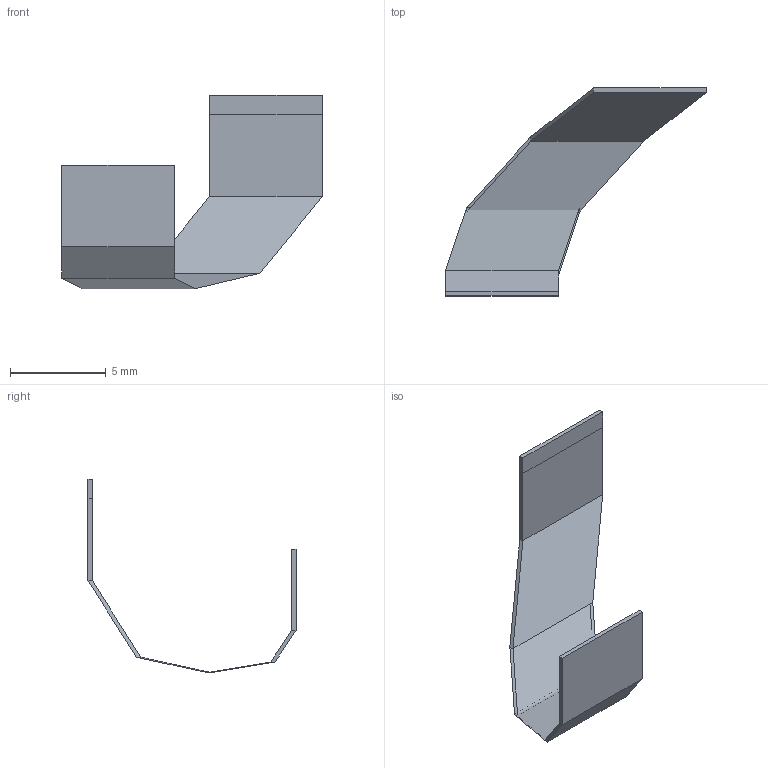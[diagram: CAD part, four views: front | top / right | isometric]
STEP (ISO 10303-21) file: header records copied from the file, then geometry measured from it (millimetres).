
FILE_DESCRIPTION(('Open CASCADE Model'),'2;1');
FILE_NAME('ov5647-camera-fpc.step','2026-11-14T14:29:29',('Author'),( 'Open CASCADE'),'Open CASCADE STEP processor 8.0','Open CASCADE 8.0' ,'Unknown');
FILE_SCHEMA(('AP242_MANAGED_MODEL_BASED_3D_ENGINEERING_MIM_LF {1 0 10303 442 1 1 4 }' ));
Length unit declared in the file: millimetre
Products named in the file (1): OV5647 Camera FPC
Bounding box: 13.62 x 10.87 x 10.1 mm (x, y, z)
Volume: 4.9 mm3; surface area: 288.7 mm2
Topology: 1 solids, 1 shells, 30 faces, 60 edges, 32 vertices
Faces by surface type: plane 16, bspline 14
Entity records: 1475 total; most frequent: CARTESIAN_POINT 341, DIRECTION 158, LINE 124, VECTOR 124, ORIENTED_EDGE 120, PCURVE 120, DEFINITIONAL_REPRESENTATION 120, EDGE_CURVE 60
